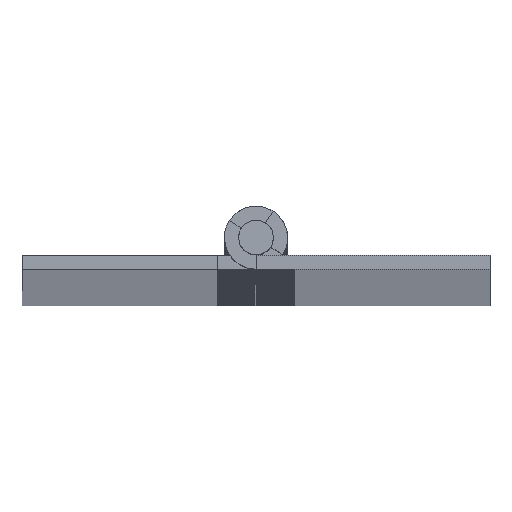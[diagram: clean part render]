
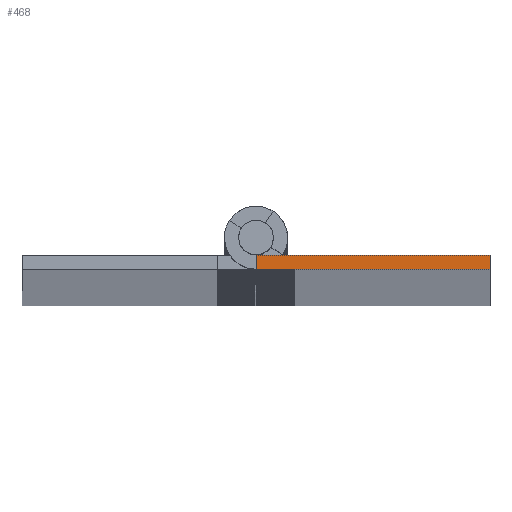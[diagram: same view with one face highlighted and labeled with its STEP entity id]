
A CAD part, top view. The second image highlights one B-rep face of the part: STEP entity #468.
In plain terms, the highlighted planar face has unit normal (0, 0, 1).
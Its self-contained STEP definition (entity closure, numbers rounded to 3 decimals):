
#468=ADVANCED_FACE('NONE',(#1928),#1929,.T.);
#1928=FACE_OUTER_BOUND('',#4034,.T.);
#1929=PLANE('',#4035);
#4034=EDGE_LOOP('',(#8412,#8413,#8414,#8415));
#4035=AXIS2_PLACEMENT_3D('',#8416,#8417,#8418);
#8412=ORIENTED_EDGE('',*,*,#15178,.T.);
#8413=ORIENTED_EDGE('',*,*,#16013,.T.);
#8414=ORIENTED_EDGE('',*,*,#15175,.F.);
#8415=ORIENTED_EDGE('',*,*,#16015,.F.);
#8416=CARTESIAN_POINT('',(-2.271,1.461,900.0));
#8417=DIRECTION('',(0.0,0.0,1.0));
#8418=DIRECTION('',(1.0,0.0,0.0));
#15175=EDGE_CURVE('NONE',#18781,#18621,#18783,.T.);
#15178=EDGE_CURVE('NONE',#18789,#18787,#18790,.T.);
#16013=EDGE_CURVE('NONE',#18787,#18621,#20055,.T.);
#16015=EDGE_CURVE('NONE',#18789,#18781,#20057,.T.);
#18621=VERTEX_POINT('NONE',#23920);
#18781=VERTEX_POINT('NONE',#24173);
#18783=LINE('',#24176,#24177);
#18787=VERTEX_POINT('NONE',#24182);
#18789=VERTEX_POINT('NONE',#24185);
#18790=LINE('',#24186,#24187);
#20055=LINE('',#25914,#25915);
#20057=LINE('',#25918,#25919);
#23920=CARTESIAN_POINT('',(0.,-2.7,900.0));
#24173=CARTESIAN_POINT('',(20.0,-2.7,900.0));
#24176=CARTESIAN_POINT('',(20.0,-2.7,900.0));
#24177=VECTOR('',#30653,1000.0);
#24182=CARTESIAN_POINT('',(0.,-1.5,900.0));
#24185=CARTESIAN_POINT('',(20.0,-1.5,900.0));
#24186=CARTESIAN_POINT('',(20.0,-1.5,900.0));
#24187=VECTOR('',#30656,1000.0);
#25914=CARTESIAN_POINT('',(0.,-1.5,900.0));
#25915=VECTOR('',#32235,1000.0);
#25918=CARTESIAN_POINT('',(20.0,-1.5,900.0));
#25919=VECTOR('',#32237,1000.0);
#30653=DIRECTION('',(-1.0,0.,0.0));
#30656=DIRECTION('',(-1.0,0.,0.0));
#32235=DIRECTION('',(0.,-1.0,0.0));
#32237=DIRECTION('',(0.0,-1.0,0.0));
